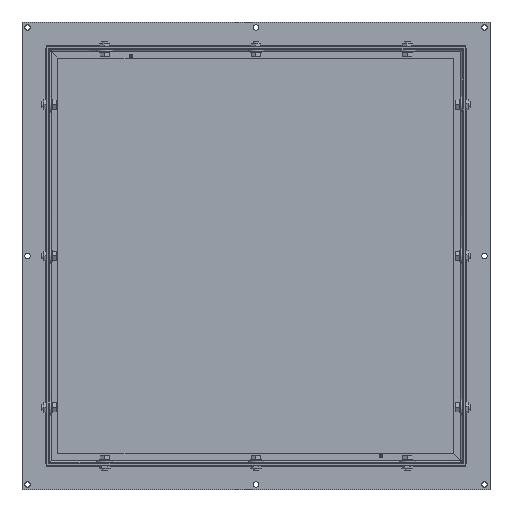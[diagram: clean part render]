
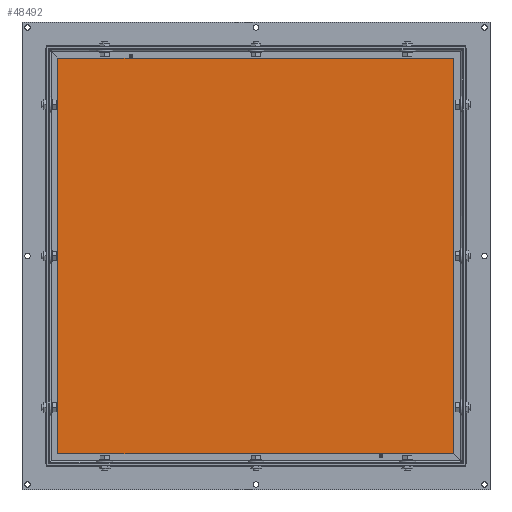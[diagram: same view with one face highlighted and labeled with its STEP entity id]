
A CAD part, front view. The second image highlights one B-rep face of the part: STEP entity #48492.
In plain terms, the highlighted planar face has unit normal (0, -1, 0).
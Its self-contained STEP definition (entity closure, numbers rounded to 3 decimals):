
#1729 = EDGE_CURVE ( 'NONE', #32632, #15966, #11064, .T. ) ;
#3323 = EDGE_CURVE ( 'NONE', #15966, #16652, #14260, .T. ) ;
#4223 = VECTOR ( 'NONE', #44363, 1000. ) ;
#6704 = CARTESIAN_POINT ( 'NONE',  ( 287.273, -67., 33.652 ) ) ;
#8120 = CARTESIAN_POINT ( 'NONE',  ( 287.273, -67., 608.617 ) ) ;
#11064 = LINE ( 'NONE', #40182, #42399 ) ;
#14260 = LINE ( 'NONE', #35565, #18882 ) ;
#15280 = DIRECTION ( 'NONE',  ( 0., 0., 1. ) ) ;
#15604 = LINE ( 'NONE', #18197, #4223 ) ;
#15966 = VERTEX_POINT ( 'NONE', #16909 ) ;
#16652 = VERTEX_POINT ( 'NONE', #38879 ) ;
#16909 = CARTESIAN_POINT ( 'NONE',  ( -287.901, -67., 608.617 ) ) ;
#18056 = VERTEX_POINT ( 'NONE', #6704 ) ;
#18197 = CARTESIAN_POINT ( 'NONE',  ( -287.901, -67., 33.652 ) ) ;
#18468 = EDGE_CURVE ( 'NONE', #16652, #18056, #15604, .T. ) ;
#18882 = VECTOR ( 'NONE', #47665, 1000. ) ;
#23179 = LINE ( 'NONE', #49403, #29173 ) ;
#28060 = ORIENTED_EDGE ( 'NONE', *, *, #18468, .T. ) ;
#29173 = VECTOR ( 'NONE', #15280, 1000. ) ;
#29952 = ORIENTED_EDGE ( 'NONE', *, *, #3323, .T. ) ;
#32632 = VERTEX_POINT ( 'NONE', #8120 ) ;
#34481 = ORIENTED_EDGE ( 'NONE', *, *, #54864, .T. ) ;
#35565 = CARTESIAN_POINT ( 'NONE',  ( -287.901, -67., 608.617 ) ) ;
#35759 = DIRECTION ( 'NONE',  ( -1., 0., 0. ) ) ;
#37183 = AXIS2_PLACEMENT_3D ( 'NONE', #51024, #43231, #47147 ) ;
#38753 = PLANE ( 'NONE',  #37183 ) ;
#38879 = CARTESIAN_POINT ( 'NONE',  ( -287.901, -67., 33.652 ) ) ;
#39726 = FACE_OUTER_BOUND ( 'NONE', #52692, .T. ) ;
#40182 = CARTESIAN_POINT ( 'NONE',  ( -287.901, -67., 608.617 ) ) ;
#42399 = VECTOR ( 'NONE', #35759, 1000. ) ;
#43231 = DIRECTION ( 'NONE',  ( 0., -1., 0. ) ) ;
#44363 = DIRECTION ( 'NONE',  ( 1., 0., 0. ) ) ;
#47147 = DIRECTION ( 'NONE',  ( 0., 0., -1. ) ) ;
#47665 = DIRECTION ( 'NONE',  ( 0., 0., -1. ) ) ;
#48492 = ADVANCED_FACE ( 'NONE', ( #39726 ), #38753, .T. ) ;
#49403 = CARTESIAN_POINT ( 'NONE',  ( 287.273, -67., 608.617 ) ) ;
#50216 = ORIENTED_EDGE ( 'NONE', *, *, #1729, .T. ) ;
#51024 = CARTESIAN_POINT ( 'NONE',  ( -297.5, -67., 618.5 ) ) ;
#52692 = EDGE_LOOP ( 'NONE', ( #50216, #29952, #28060, #34481 ) ) ;
#54864 = EDGE_CURVE ( 'NONE', #18056, #32632, #23179, .T. ) ;
